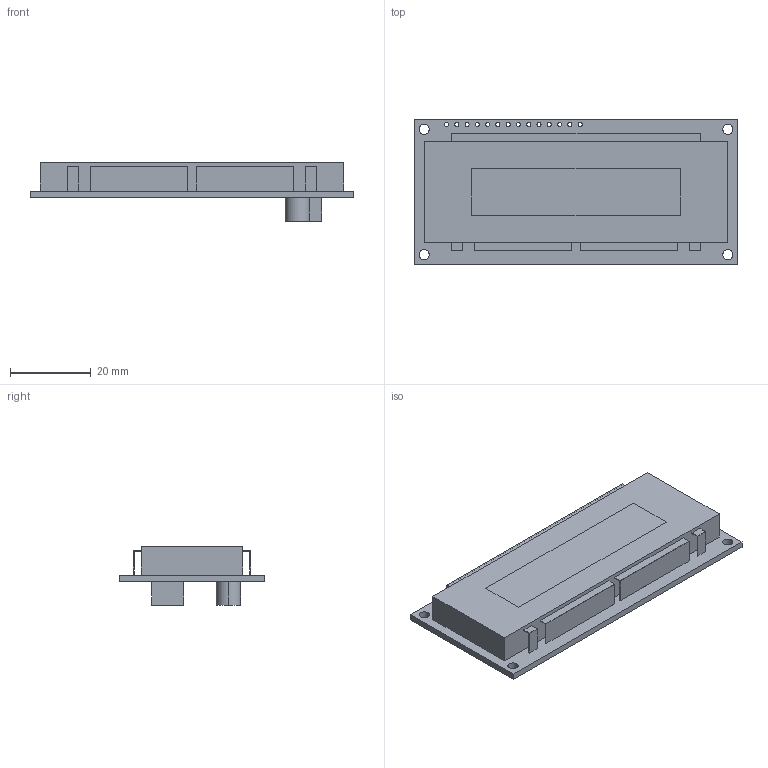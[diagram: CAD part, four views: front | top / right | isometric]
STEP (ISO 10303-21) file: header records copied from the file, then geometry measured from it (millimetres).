
FILE_DESCRIPTION (( 'STEP AP214' ), '1' );
FILE_NAME ('M0216SD-162SDAR2-1.STEP', '2017-09-25T19:34:09', ( '' ), ( '' ), 'SwSTEP 2.0', 'SolidWorks 2017', '' );
FILE_SCHEMA (( 'AUTOMOTIVE_DESIGN' ));
Length unit declared in the file: millimetre
Products named in the file (1): M0216SD-162SDAR2-1
Bounding box: 80 x 36 x 14.45 mm (x, y, z)
Volume: 19043.4 mm3; surface area: 10976.3 mm2
Topology: 2 solids, 2 shells, 91 faces, 252 edges, 168 vertices
Faces by surface type: plane 53, cylinder 38
Entity records: 3992 total; most frequent: DIRECTION 512, CARTESIAN_POINT 512, ORIENTED_EDGE 504, EDGE_CURVE 252, VECTOR 176, LINE 176, VERTEX_POINT 168, AXIS2_PLACEMENT_3D 168
